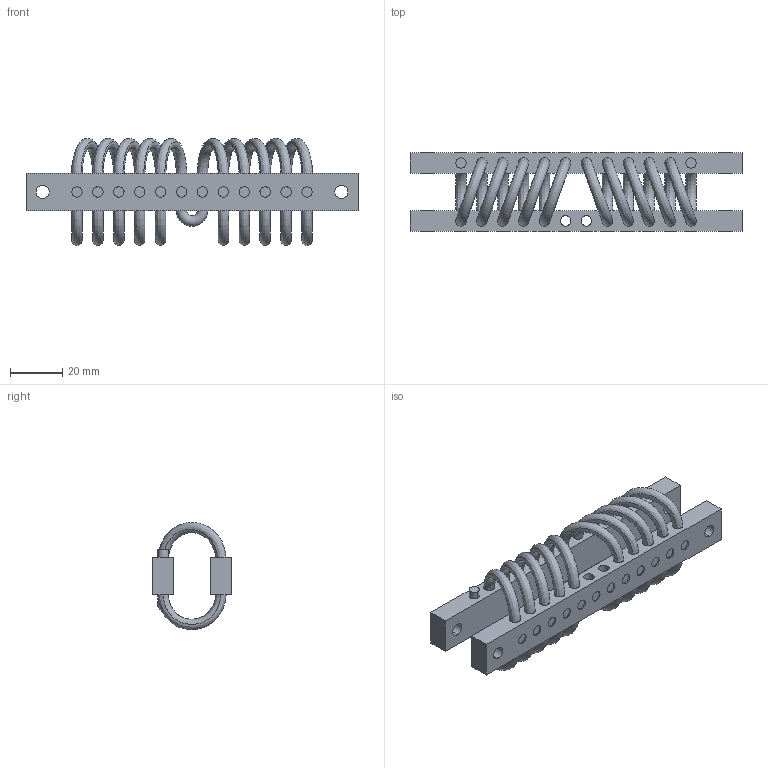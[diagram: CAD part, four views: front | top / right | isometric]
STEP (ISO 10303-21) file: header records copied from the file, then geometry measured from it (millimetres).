
FILE_DESCRIPTION (( 'STEP AP214' ), '1' );
FILE_NAME ('WR5-200-10DM.STEP', '2018-12-07T09:52:09', ( 'user' ), ( 'Microsoft' ), 'SwSTEP 2.0', 'SolidWorks 2016', '' );
FILE_SCHEMA (( 'AUTOMOTIVE_DESIGN' ));
Length unit declared in the file: millimetre
Products named in the file (1): WR5-200-10DM
Bounding box: 127 x 30 x 40.98 mm (x, y, z)
Volume: 36747.6 mm3; surface area: 29644.7 mm2
Topology: 25 solids, 25 shells, 316 faces, 702 edges, 460 vertices
Faces by surface type: cylinder 192, plane 82, bspline 40, torus 2
Entity records: 21870 total; most frequent: CARTESIAN_POINT 14599, ORIENTED_EDGE 1404, DIRECTION 1382, EDGE_CURVE 702, AXIS2_PLACEMENT_3D 583, VERTEX_POINT 460, EDGE_LOOP 396, ADVANCED_FACE 316
